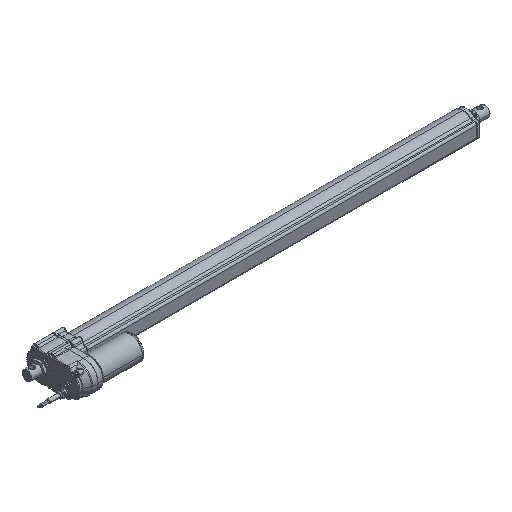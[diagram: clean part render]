
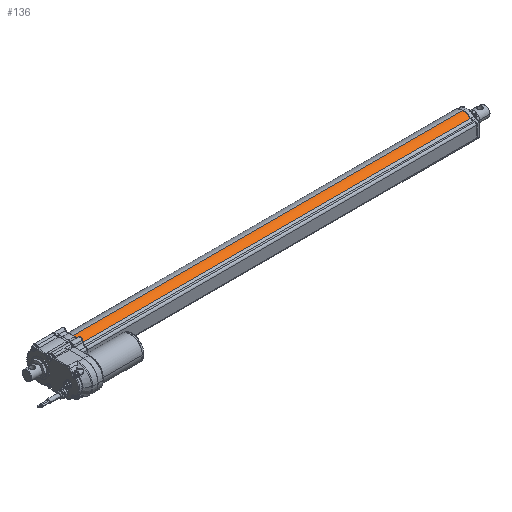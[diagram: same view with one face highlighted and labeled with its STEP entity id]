
A CAD part, isometric view. The second image highlights one B-rep face of the part: STEP entity #136.
In plain terms, the highlighted cylindrical face has radius 30.5 mm (diameter 61 mm), a partial arc.
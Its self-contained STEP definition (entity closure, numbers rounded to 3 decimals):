
#136=ADVANCED_FACE('',(#1138),#1139,.T.);
#1138=FACE_OUTER_BOUND('',#3063,.T.);
#1139=CYLINDRICAL_SURFACE('',#3064,30.5);
#3063=EDGE_LOOP('',(#8479,#8480,#8481,#8482));
#3064=AXIS2_PLACEMENT_3D('',#8483,#8484,#8485);
#8479=ORIENTED_EDGE('',*,*,#15518,.F.);
#8480=ORIENTED_EDGE('',*,*,#15519,.F.);
#8481=ORIENTED_EDGE('',*,*,#15520,.T.);
#8482=ORIENTED_EDGE('',*,*,#15521,.F.);
#8483=CARTESIAN_POINT('',(94.3,0.,0.));
#8484=DIRECTION('',(1.0,0.,0.));
#8485=DIRECTION('',(0.,0.,1.0));
#15518=EDGE_CURVE('',#18125,#18126,#18127,.T.);
#15519=EDGE_CURVE('',#18128,#18125,#18129,.T.);
#15520=EDGE_CURVE('',#18128,#18130,#18131,.T.);
#15521=EDGE_CURVE('',#18126,#18130,#18132,.T.);
#18125=VERTEX_POINT('',#23105);
#18126=VERTEX_POINT('',#23106);
#18127=LINE('',#23107,#23108);
#18128=VERTEX_POINT('',#23109);
#18129=CIRCLE('',#23110,30.5);
#18130=VERTEX_POINT('',#23111);
#18131=LINE('',#23112,#23113);
#18132=CIRCLE('',#23114,30.5);
#23105=CARTESIAN_POINT('',(94.3,0.,30.5));
#23106=CARTESIAN_POINT('',(1139.5,0.,30.5));
#23107=CARTESIAN_POINT('',(94.3,0.,30.5));
#23108=VECTOR('',#38996,1.0);
#23109=CARTESIAN_POINT('',(94.3,-20.49,22.593));
#23110=AXIS2_PLACEMENT_3D('',#38997,#38998,#38999);
#23111=CARTESIAN_POINT('',(1139.5,-20.49,22.593));
#23112=CARTESIAN_POINT('',(94.3,-20.49,22.593));
#23113=VECTOR('',#39000,1.0);
#23114=AXIS2_PLACEMENT_3D('',#39001,#39002,#39003);
#38996=DIRECTION('',(1.0,0.,0.));
#38997=CARTESIAN_POINT('',(94.3,0.,0.));
#38998=DIRECTION('',(-1.0,0.,0.));
#38999=DIRECTION('',(0.,0.,1.0));
#39000=DIRECTION('',(1.0,0.,0.));
#39001=CARTESIAN_POINT('',(1139.5,0.,0.));
#39002=DIRECTION('',(1.0,0.,0.));
#39003=DIRECTION('',(0.,0.,1.0));
